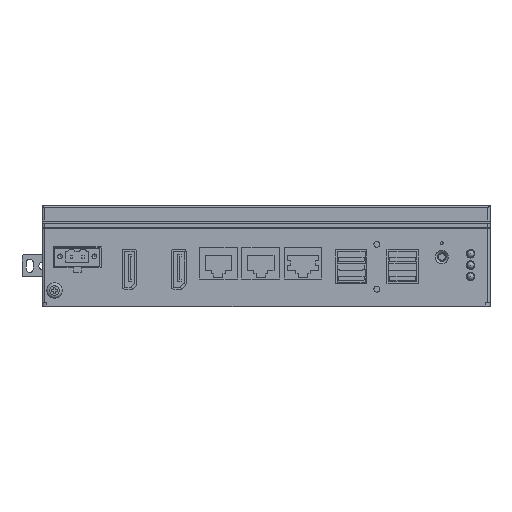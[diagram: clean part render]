
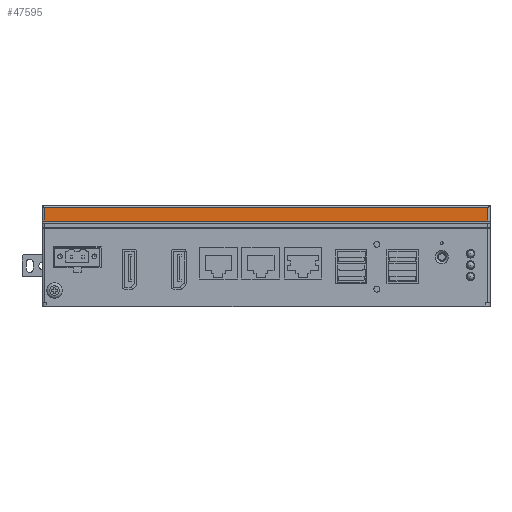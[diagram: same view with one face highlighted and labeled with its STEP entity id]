
A CAD part, top view. The second image highlights one B-rep face of the part: STEP entity #47595.
In plain terms, the highlighted planar face has unit normal (0, 0, 1).
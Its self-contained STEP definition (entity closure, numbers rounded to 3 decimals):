
#3889=ORIENTED_EDGE('',*,*,#16764,.F.);
#3890=ORIENTED_EDGE('',*,*,#16765,.F.);
#3891=ORIENTED_EDGE('',*,*,#16766,.T.);
#3892=ORIENTED_EDGE('',*,*,#16767,.T.);
#16764=EDGE_CURVE('',#23194,#23195,#27551,.T.);
#16765=EDGE_CURVE('',#23196,#23194,#27552,.T.);
#16766=EDGE_CURVE('',#23196,#23197,#27553,.T.);
#16767=EDGE_CURVE('',#23197,#23195,#27554,.T.);
#23194=VERTEX_POINT('',#92373);
#23195=VERTEX_POINT('',#92374);
#23196=VERTEX_POINT('',#92376);
#23197=VERTEX_POINT('',#92378);
#27551=LINE('',#92372,#33253);
#27552=LINE('',#92375,#33254);
#27553=LINE('',#92377,#33255);
#27554=LINE('',#92379,#33256);
#33253=VECTOR('',#77432,1000.);
#33254=VECTOR('',#77433,1000.);
#33255=VECTOR('',#77434,1000.);
#33256=VECTOR('',#77435,1000.);
#37843=EDGE_LOOP('',(#3889,#3890,#3891,#3892));
#41769=FACE_BOUND('',#37843,.T.);
#45055=PLANE('',#71146);
#47595=ADVANCED_FACE('',(#41769),#45055,.F.);
#71146=AXIS2_PLACEMENT_3D('',#92371,#77430,#77431);
#77430=DIRECTION('',(0.,0.,-1.));
#77431=DIRECTION('',(-1.,0.,0.));
#77432=DIRECTION('',(-1.,0.,0.));
#77433=DIRECTION('',(0.,-1.,0.));
#77434=DIRECTION('',(-1.,0.,0.));
#77435=DIRECTION('',(0.,-1.,0.));
#92371=CARTESIAN_POINT('',(100.,44.,70.));
#92372=CARTESIAN_POINT('',(100.,38.,70.));
#92373=CARTESIAN_POINT('',(99.,38.,70.));
#92374=CARTESIAN_POINT('',(-99.,38.,70.));
#92375=CARTESIAN_POINT('',(99.,46.5,70.));
#92376=CARTESIAN_POINT('',(99.,44.,70.));
#92377=CARTESIAN_POINT('',(100.,44.,70.));
#92378=CARTESIAN_POINT('',(-99.,44.,70.));
#92379=CARTESIAN_POINT('',(-99.,46.5,70.));
